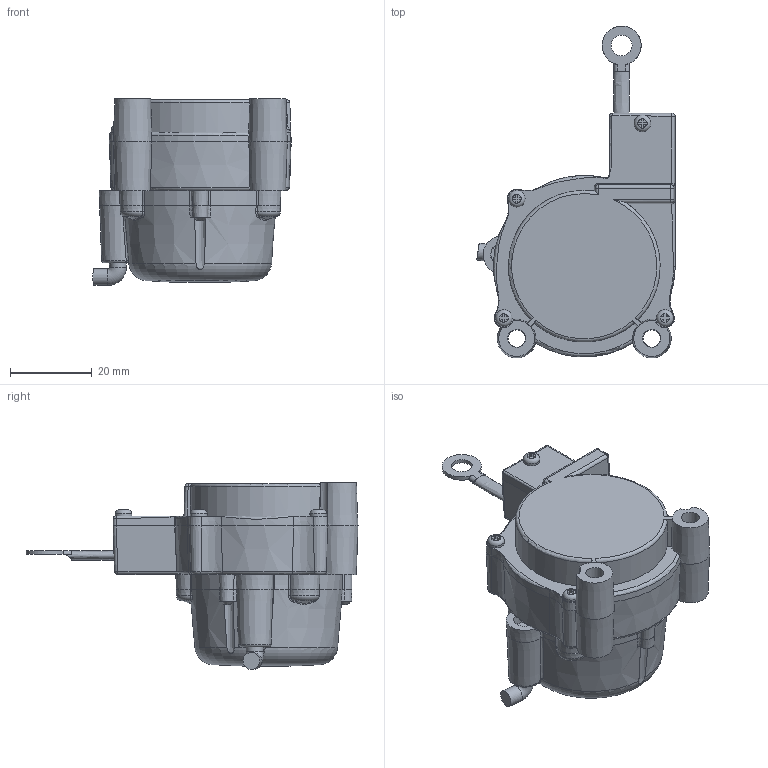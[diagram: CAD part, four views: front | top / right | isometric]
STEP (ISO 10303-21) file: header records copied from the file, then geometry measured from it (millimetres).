
FILE_DESCRIPTION(/* description */ (''),/* implementation_level */ '2;1');
FILE_NAME(/* name */ '\\truenas\1-DOC\Z-Jess Directory\00-Inventor Workspace\lx-em-16-3.stp',/* time_stamp */ '2023-06-01T09:41:32-07:00',/* author */ ('JessRP'),/* organization */ (''),/* preprocessor_version */ 'ST-DEVELOPER v18',/* originating_system */ 'Autodesk Inventor 2020',/* authorisation */ '');
FILE_SCHEMA (('AUTOMOTIVE_DESIGN { 1 0 10303 214 3 1 1 }'));
Length unit declared in the file: inch
Products named in the file (1): lx-em-16-3
Bounding box: 48.48 x 81.15 x 45.69 mm (x, y, z)
Volume: 60439.1 mm3; surface area: 14725.6 mm2
Topology: 1 solids, 19 shells, 540 faces, 1482 edges, 965 vertices
Faces by surface type: plane 206, cone 165, cylinder 67, bspline 63, torus 33, sphere 6
Full cylindrical faces by diameter (mm): 0.914 x24, 1.524 x3, 4.089 x4, 4.127 x2, 4.216 x2, 4.385 x2, 5.08 x1, 28.702 x1
Entity records: 26787 total; most frequent: CARTESIAN_POINT 13159, ORIENTED_EDGE 2946, DIRECTION 2771, EDGE_CURVE 1473, AXIS2_PLACEMENT_3D 1156, VERTEX_POINT 965, CIRCLE 654, EDGE_LOOP 560
